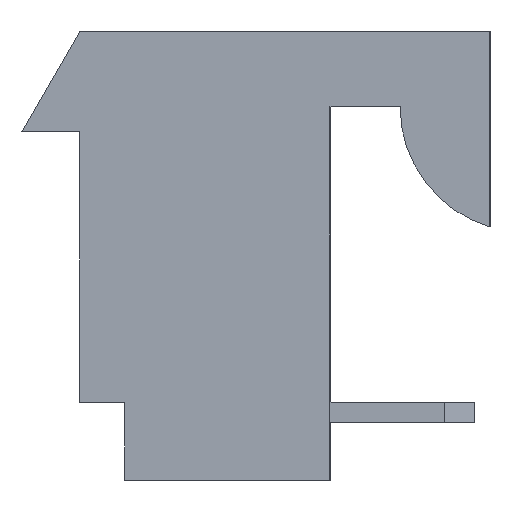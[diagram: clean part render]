
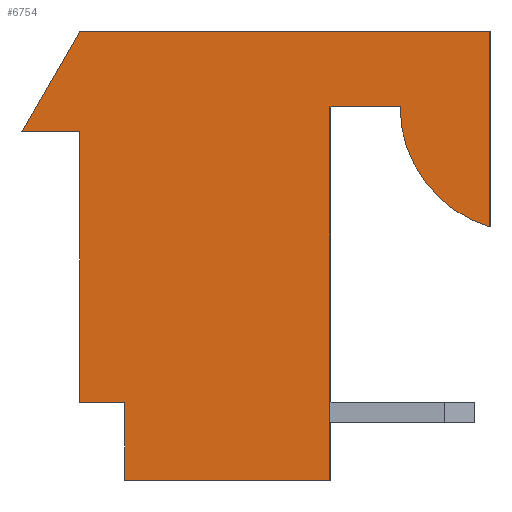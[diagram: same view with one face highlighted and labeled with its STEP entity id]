
A CAD part, left-side view. The second image highlights one B-rep face of the part: STEP entity #6754.
In plain terms, the highlighted planar face has unit normal (-1, 0, 0).
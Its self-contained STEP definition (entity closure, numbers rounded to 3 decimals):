
#1=DIRECTION('',(0.,0.,1.));
#2=VECTOR('',#1,6.88);
#3=CARTESIAN_POINT('',(-27.685,10.414,-9.42));
#4=LINE('',#3,#2);
#5=DIRECTION('',(0.,-1.,0.));
#6=VECTOR('',#5,1.473);
#7=CARTESIAN_POINT('',(-27.685,11.887,-2.54));
#8=LINE('',#7,#6);
#9=DIRECTION('',(0.,0.502,-0.865));
#10=VECTOR('',#9,2.936);
#11=CARTESIAN_POINT('',(-27.685,10.414,0.));
#12=LINE('',#11,#10);
#13=DIRECTION('',(0.,-1.,0.));
#14=VECTOR('',#13,10.414);
#15=CARTESIAN_POINT('',(-27.685,10.414,0.));
#16=LINE('',#15,#14);
#17=DIRECTION('',(0.,0.,-1.));
#18=VECTOR('',#17,4.961);
#19=CARTESIAN_POINT('',(-27.685,0.,0.));
#20=LINE('',#19,#18);
#21=CARTESIAN_POINT('',(-27.685,-0.896,-1.91));
#22=DIRECTION('',(1.,0.,0.));
#23=DIRECTION('',(0.,0.282,-0.959));
#24=AXIS2_PLACEMENT_3D('',#21,#22,#23);
#26=DIRECTION('',(0.,1.,0.));
#27=VECTOR('',#26,1.78);
#28=CARTESIAN_POINT('',(-27.685,2.284,-1.91));
#29=LINE('',#28,#27);
#30=DIRECTION('',(0.,0.,-1.));
#31=VECTOR('',#30,9.49);
#32=CARTESIAN_POINT('',(-27.685,4.064,-1.91));
#33=LINE('',#32,#31);
#34=DIRECTION('',(0.,1.,0.));
#35=VECTOR('',#34,5.21);
#36=CARTESIAN_POINT('',(-27.685,4.064,-11.4));
#37=LINE('',#36,#35);
#38=DIRECTION('',(0.,0.,1.));
#39=VECTOR('',#38,1.98);
#40=CARTESIAN_POINT('',(-27.685,9.274,-11.4));
#41=LINE('',#40,#39);
#42=DIRECTION('',(0.,1.,0.));
#43=VECTOR('',#42,1.14);
#44=CARTESIAN_POINT('',(-27.685,9.274,-9.42));
#45=LINE('',#44,#43);
#5101=CARTESIAN_POINT('',(-27.685,0.,0.));
#5102=CARTESIAN_POINT('',(-27.685,0.,-4.961));
#5103=VERTEX_POINT('',#5101);
#5104=VERTEX_POINT('',#5102);
#5105=CARTESIAN_POINT('',(-27.685,2.284,-1.91));
#5106=CARTESIAN_POINT('',(-27.685,4.064,-1.91));
#5107=VERTEX_POINT('',#5105);
#5108=VERTEX_POINT('',#5106);
#5109=CARTESIAN_POINT('',(-27.685,4.064,-11.4));
#5110=VERTEX_POINT('',#5109);
#5111=CARTESIAN_POINT('',(-27.685,9.274,-11.4));
#5112=VERTEX_POINT('',#5111);
#5113=CARTESIAN_POINT('',(-27.685,9.274,-9.42));
#5114=VERTEX_POINT('',#5113);
#5115=CARTESIAN_POINT('',(-27.685,10.414,-9.42));
#5116=VERTEX_POINT('',#5115);
#5537=CARTESIAN_POINT('',(-27.685,10.414,-2.54));
#5538=VERTEX_POINT('',#5537);
#5539=CARTESIAN_POINT('',(-27.685,10.414,0.));
#5540=VERTEX_POINT('',#5539);
#5554=CARTESIAN_POINT('',(-27.685,11.887,-2.54));
#5556=VERTEX_POINT('',#5554);
#6725=CARTESIAN_POINT('',(-27.685,0.,0.));
#6726=DIRECTION('',(1.,0.,0.));
#6727=DIRECTION('',(0.,0.,-1.));
#6728=AXIS2_PLACEMENT_3D('',#6725,#6726,#6727);
#6729=PLANE('',#6728);
#6731=ORIENTED_EDGE('',*,*,#6730,.T.);
#6733=ORIENTED_EDGE('',*,*,#6732,.F.);
#6735=ORIENTED_EDGE('',*,*,#6734,.F.);
#6737=ORIENTED_EDGE('',*,*,#6736,.T.);
#6739=ORIENTED_EDGE('',*,*,#6738,.T.);
#6741=ORIENTED_EDGE('',*,*,#6740,.T.);
#6743=ORIENTED_EDGE('',*,*,#6742,.T.);
#6745=ORIENTED_EDGE('',*,*,#6744,.T.);
#6747=ORIENTED_EDGE('',*,*,#6746,.T.);
#6749=ORIENTED_EDGE('',*,*,#6748,.T.);
#6751=ORIENTED_EDGE('',*,*,#6750,.T.);
#6752=EDGE_LOOP('',(#6731,#6733,#6735,#6737,#6739,#6741,#6743,#6745,#6747,#6749,
#6751));
#6753=FACE_OUTER_BOUND('',#6752,.F.);
#6754=ADVANCED_FACE('',(#6753),#6729,.F.);
#25=CIRCLE('',#24,3.18);
#6730=EDGE_CURVE('',#5116,#5538,#4,.T.);
#6732=EDGE_CURVE('',#5556,#5538,#8,.T.);
#6734=EDGE_CURVE('',#5540,#5556,#12,.T.);
#6736=EDGE_CURVE('',#5540,#5103,#16,.T.);
#6738=EDGE_CURVE('',#5103,#5104,#20,.T.);
#6740=EDGE_CURVE('',#5104,#5107,#25,.T.);
#6742=EDGE_CURVE('',#5107,#5108,#29,.T.);
#6744=EDGE_CURVE('',#5108,#5110,#33,.T.);
#6746=EDGE_CURVE('',#5110,#5112,#37,.T.);
#6748=EDGE_CURVE('',#5112,#5114,#41,.T.);
#6750=EDGE_CURVE('',#5114,#5116,#45,.T.);
